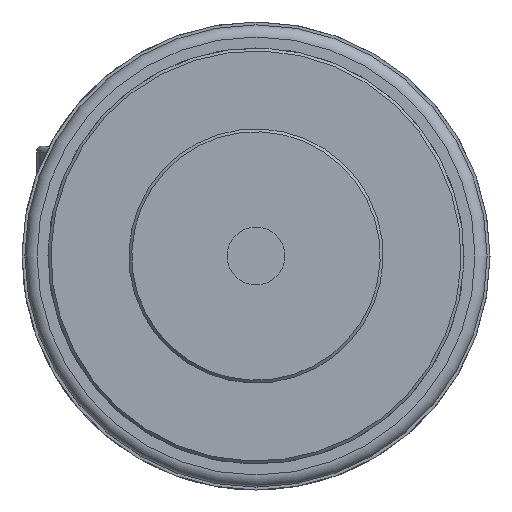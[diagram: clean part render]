
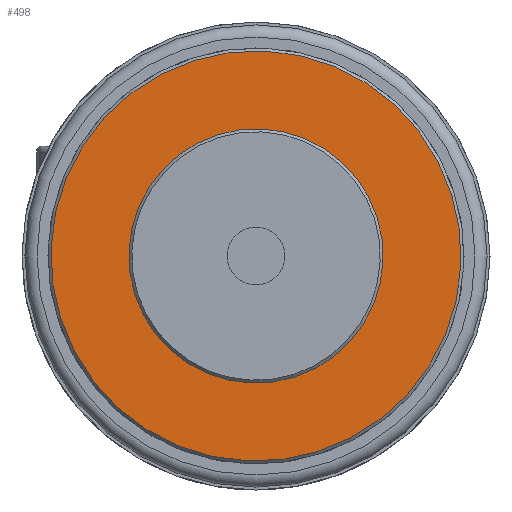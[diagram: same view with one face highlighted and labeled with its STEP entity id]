
A CAD part, left-side view. The second image highlights one B-rep face of the part: STEP entity #498.
In plain terms, the highlighted planar face has unit normal (-1, 0, 0) as drawn and (1, 0, 0) by its records, which use the part's own axes.
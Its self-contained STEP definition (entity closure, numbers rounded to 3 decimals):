
#498 = ADVANCED_FACE( '', ( #1098, #1099 ), #1100, .T. );
#1098 = FACE_OUTER_BOUND( '', #1887, .T. );
#1099 = FACE_BOUND( '', #1888, .T. );
#1100 = PLANE( '', #1889 );
#1887 = EDGE_LOOP( '', ( #2911 ) );
#1888 = EDGE_LOOP( '', ( #2912 ) );
#1889 = AXIS2_PLACEMENT_3D( '', #2913, #2914, #2915 );
#2911 = ORIENTED_EDGE( '', *, *, #4200, .T. );
#2912 = ORIENTED_EDGE( '', *, *, #4201, .T. );
#2913 = CARTESIAN_POINT( '', ( 6.5, 0., 18. ) );
#2914 = DIRECTION( '', ( 1., 0., 0. ) );
#2915 = DIRECTION( '', ( 0., 0., -1. ) );
#4200 = EDGE_CURVE( '', #4930, #4930, #4931, .T. );
#4201 = EDGE_CURVE( '', #4932, #4932, #4933, .T. );
#4930 = VERTEX_POINT( '', #5824 );
#4931 = CIRCLE( '', #5825, 17.75 );
#4932 = VERTEX_POINT( '', #5826 );
#4933 = CIRCLE( '', #5827, 11. );
#5824 = CARTESIAN_POINT( '', ( 6.5, 0., -17.75 ) );
#5825 = AXIS2_PLACEMENT_3D( '', #6872, #6873, #6874 );
#5826 = CARTESIAN_POINT( '', ( 6.5, 0., 11. ) );
#5827 = AXIS2_PLACEMENT_3D( '', #6875, #6876, #6877 );
#6872 = CARTESIAN_POINT( '', ( 6.5, 0., 0. ) );
#6873 = DIRECTION( '', ( 1., 0., 0. ) );
#6874 = DIRECTION( '', ( 0., 0., -1. ) );
#6875 = CARTESIAN_POINT( '', ( 6.5, 0., 0. ) );
#6876 = DIRECTION( '', ( -1., 0., 0. ) );
#6877 = DIRECTION( '', ( 0., 0., 1. ) );
